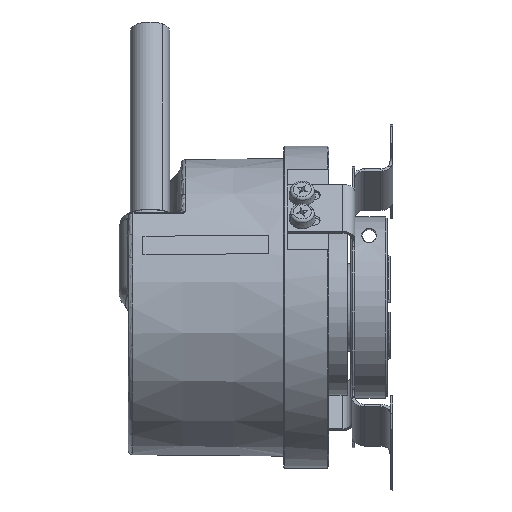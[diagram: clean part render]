
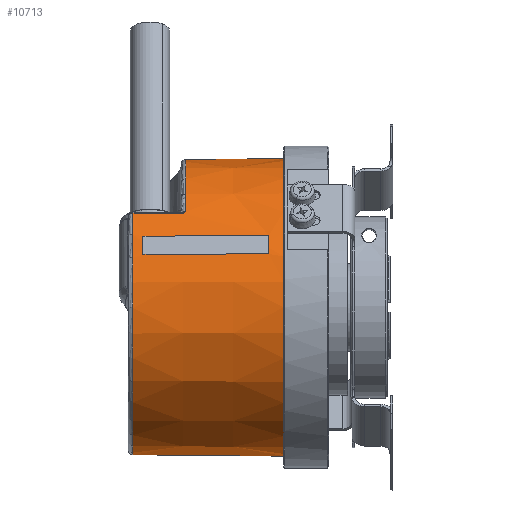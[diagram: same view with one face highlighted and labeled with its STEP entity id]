
A CAD part, front view. The second image highlights one B-rep face of the part: STEP entity #10713.
In plain terms, the highlighted conical face has half-angle 0.5 degrees and reference radius 25.4 mm.
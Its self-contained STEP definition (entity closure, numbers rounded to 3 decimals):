
#2391 = CARTESIAN_POINT ( 'NONE',  ( -20.207, 0., -25.176 ) ) ;
#2395 = DIRECTION ( 'NONE',  ( 1., 0., -0.009 ) ) ;
#2396 = VECTOR ( 'NONE', #2395, 1000. ) ;
#2397 = CARTESIAN_POINT ( 'NONE',  ( 5.5, 0., -25.4 ) ) ;
#2398 = LINE ( 'NONE', #2397, #2396 ) ;
#2399 = CARTESIAN_POINT ( 'NONE',  ( 5.5, 0., -25.4 ) ) ;
#2405 = CARTESIAN_POINT ( 'NONE',  ( 5.5, 0., 25.4 ) ) ;
#2406 = DIRECTION ( 'NONE',  ( 1., 0., 0.009 ) ) ;
#2407 = VECTOR ( 'NONE', #2406, 1000. ) ;
#2408 = CARTESIAN_POINT ( 'NONE',  ( 5.5, 0., 25.4 ) ) ;
#2409 = LINE ( 'NONE', #2408, #2407 ) ;
#2410 = CARTESIAN_POINT ( 'NONE',  ( -11.207, 0., 25.254 ) ) ;
#2646 = CIRCLE ( 'NONE', #2704, 25.254 ) ;
#2701 = DIRECTION ( 'NONE',  ( 0., 0., 1. ) ) ;
#2702 = DIRECTION ( 'NONE',  ( 1., 0., 0. ) ) ;
#2703 = CARTESIAN_POINT ( 'NONE',  ( -11.207, 0., 0. ) ) ;
#2704 = AXIS2_PLACEMENT_3D ( 'NONE', #2703, #2702, #2701 ) ;
#2705 = CARTESIAN_POINT ( 'NONE',  ( -11.207, -19.272, 16.321 ) ) ;
#3041 = CARTESIAN_POINT ( 'NONE',  ( -20.207, -19.395, 16.051 ) ) ;
#3042 = DIRECTION ( 'NONE',  ( 0., 0., -1. ) ) ;
#3043 = DIRECTION ( 'NONE',  ( 1., 0., 0. ) ) ;
#3044 = AXIS2_PLACEMENT_3D ( 'NONE', #3057, #3043, #3042 ) ;
#3045 = CIRCLE ( 'NONE', #3044, 25.176 ) ;
#3057 = CARTESIAN_POINT ( 'NONE',  ( -20.207, 0., 0. ) ) ;
#3067 = CARTESIAN_POINT ( 'NONE',  ( -11.918, -19.463, 16.083 ) ) ;
#3723 = CARTESIAN_POINT ( 'NONE',  ( -20.207, -19.395, 16.051 ) ) ;
#3724 = CARTESIAN_POINT ( 'NONE',  ( -18.111, -19.412, 16.059 ) ) ;
#3725 = CARTESIAN_POINT ( 'NONE',  ( -16.015, -19.43, 16.067 ) ) ;
#3726 = CARTESIAN_POINT ( 'NONE',  ( -13.918, -19.447, 16.075 ) ) ;
#3727 = CARTESIAN_POINT ( 'NONE',  ( -13.385, -19.451, 16.077 ) ) ;
#3728 = CARTESIAN_POINT ( 'NONE',  ( -12.852, -19.455, 16.079 ) ) ;
#3729 = CARTESIAN_POINT ( 'NONE',  ( -12.318, -19.46, 16.081 ) ) ;
#3730 = CARTESIAN_POINT ( 'NONE',  ( -12.185, -19.461, 16.082 ) ) ;
#3731 = CARTESIAN_POINT ( 'NONE',  ( -12.052, -19.462, 16.082 ) ) ;
#3732 = CARTESIAN_POINT ( 'NONE',  ( -11.918, -19.463, 16.083 ) ) ;
#3740 = B_SPLINE_CURVE_WITH_KNOTS ( 'NONE', 3,
 ( #3732, #3731, #3730, #3729, #3728, #3727, #3726, #3725, #3724, #3723 ),
 .UNSPECIFIED., .F., .F.,
 ( 4, 3, 3, 4 ),
 ( 0., 0., 0.002, 0.008 ),
 .UNSPECIFIED. ) ;
#6415 = DIRECTION ( 'NONE',  ( 0., 0., -1. ) ) ;
#6416 = DIRECTION ( 'NONE',  ( -1., 0., 0. ) ) ;
#6417 = CARTESIAN_POINT ( 'NONE',  ( -18.5, 0., 0. ) ) ;
#6418 = AXIS2_PLACEMENT_3D ( 'NONE', #6417, #6416, #6415 ) ;
#6419 = CIRCLE ( 'NONE', #6418, 25.191 ) ;
#6420 = DIRECTION ( 'NONE',  ( 0., 0., -1. ) ) ;
#6421 = DIRECTION ( 'NONE',  ( 1., 0., 0. ) ) ;
#6422 = AXIS2_PLACEMENT_3D ( 'NONE', #6430, #6421, #6420 ) ;
#6423 = CIRCLE ( 'NONE', #6422, 25.4 ) ;
#6424 = CARTESIAN_POINT ( 'NONE',  ( -11.918, -19.463, 16.083 ) ) ;
#6425 = CARTESIAN_POINT ( 'NONE',  ( -11.785, -19.464, 16.083 ) ) ;
#6426 = CARTESIAN_POINT ( 'NONE',  ( -11.656, -19.442, 16.111 ) ) ;
#6427 = CARTESIAN_POINT ( 'NONE',  ( -11.418, -19.373, 16.198 ) ) ;
#6428 = CARTESIAN_POINT ( 'NONE',  ( -11.31, -19.325, 16.257 ) ) ;
#6429 = CARTESIAN_POINT ( 'NONE',  ( -11.207, -19.272, 16.321 ) ) ;
#6430 = CARTESIAN_POINT ( 'NONE',  ( 5.5, 0., 0. ) ) ;
#6431 = B_SPLINE_CURVE_WITH_KNOTS ( 'NONE', 3,
 ( #6429, #6428, #6427, #6426, #6425, #6424 ),
 .UNSPECIFIED., .F., .F.,
 ( 4, 2, 4 ),
 ( 0., 0., 0.001 ),
 .UNSPECIFIED. ) ;
#6448 = FACE_BOUND ( 'NONE', #10701, .T. ) ;
#6449 = FACE_OUTER_BOUND ( 'NONE', #10714, .T. ) ;
#6453 = CARTESIAN_POINT ( 'NONE',  ( -18.5, -22.055, 12.172 ) ) ;
#6454 = CARTESIAN_POINT ( 'NONE',  ( -17.603, -22.061, 12.176 ) ) ;
#6455 = CARTESIAN_POINT ( 'NONE',  ( -16.707, -22.068, 12.179 ) ) ;
#6456 = CARTESIAN_POINT ( 'NONE',  ( -15.81, -22.075, 12.183 ) ) ;
#6457 = CARTESIAN_POINT ( 'NONE',  ( -9.54, -22.124, 12.208 ) ) ;
#6458 = CARTESIAN_POINT ( 'NONE',  ( -3.27, -22.173, 12.232 ) ) ;
#6459 = CARTESIAN_POINT ( 'NONE',  ( 3., -22.222, 12.257 ) ) ;
#6461 = CARTESIAN_POINT ( 'NONE',  ( -18.5, -22.055, 12.172 ) ) ;
#6462 = B_SPLINE_CURVE_WITH_KNOTS ( 'NONE', 3,
 ( #6459, #6458, #6457, #6456, #6455, #6454, #6453 ),
 .UNSPECIFIED., .F., .F.,
 ( 4, 3, 4 ),
 ( 0.003, 0.022, 0.025 ),
 .UNSPECIFIED. ) ;
#6464 = CARTESIAN_POINT ( 'NONE',  ( 3., -23.674, 9.144 ) ) ;
#6465 = CARTESIAN_POINT ( 'NONE',  ( -3.271, -23.623, 9.123 ) ) ;
#6466 = CARTESIAN_POINT ( 'NONE',  ( -9.541, -23.573, 9.101 ) ) ;
#6467 = CARTESIAN_POINT ( 'NONE',  ( -15.812, -23.522, 9.08 ) ) ;
#6468 = CARTESIAN_POINT ( 'NONE',  ( -16.708, -23.515, 9.077 ) ) ;
#6469 = CARTESIAN_POINT ( 'NONE',  ( -17.604, -23.508, 9.074 ) ) ;
#6470 = CARTESIAN_POINT ( 'NONE',  ( -18.5, -23.501, 9.071 ) ) ;
#6471 = CARTESIAN_POINT ( 'NONE',  ( -18.5, -23.501, 9.071 ) ) ;
#6472 = B_SPLINE_CURVE_WITH_KNOTS ( 'NONE', 3,
 ( #6470, #6469, #6468, #6467, #6466, #6465, #6464 ),
 .UNSPECIFIED., .F., .F.,
 ( 4, 3, 4 ),
 ( 0.019, 0.022, 0.041 ),
 .UNSPECIFIED. ) ;
#6485 = DIRECTION ( 'NONE',  ( 0., 0., -1. ) ) ;
#6486 = DIRECTION ( 'NONE',  ( 1., 0., 0. ) ) ;
#6487 = CARTESIAN_POINT ( 'NONE',  ( 5.5, 0., 0. ) ) ;
#6488 = AXIS2_PLACEMENT_3D ( 'NONE', #6487, #6486, #6485 ) ;
#6491 = CONICAL_SURFACE ( 'NONE', #6488, 25.4, 0.009 ) ;
#6513 = CARTESIAN_POINT ( 'NONE',  ( 3., -22.222, 12.257 ) ) ;
#6514 = CARTESIAN_POINT ( 'NONE',  ( 3., -23.674, 9.144 ) ) ;
#6515 = DIRECTION ( 'NONE',  ( 0., 0., -1. ) ) ;
#6516 = DIRECTION ( 'NONE',  ( -1., 0., 0. ) ) ;
#6517 = CARTESIAN_POINT ( 'NONE',  ( 3., 0., 0. ) ) ;
#6518 = AXIS2_PLACEMENT_3D ( 'NONE', #6517, #6516, #6515 ) ;
#6523 = CIRCLE ( 'NONE', #6518, 25.378 ) ;
#10168 = VERTEX_POINT ( 'NONE', #2410 ) ;
#10170 = EDGE_CURVE ( 'NONE', #10168, #10171, #2409, .T. ) ;
#10171 = VERTEX_POINT ( 'NONE', #2405 ) ;
#10174 = VERTEX_POINT ( 'NONE', #2399 ) ;
#10176 = EDGE_CURVE ( 'NONE', #10177, #10174, #2398, .T. ) ;
#10177 = VERTEX_POINT ( 'NONE', #2391 ) ;
#10239 = EDGE_CURVE ( 'NONE', #10168, #10240, #2646, .T. ) ;
#10240 = VERTEX_POINT ( 'NONE', #2705 ) ;
#10329 = EDGE_CURVE ( 'NONE', #10330, #10177, #3045, .T. ) ;
#10330 = VERTEX_POINT ( 'NONE', #3041 ) ;
#10336 = VERTEX_POINT ( 'NONE', #3067 ) ;
#10396 = EDGE_CURVE ( 'NONE', #10336, #10330, #3740, .T. ) ;
#10694 = ORIENTED_EDGE ( 'NONE', *, *, #10695, .T. ) ;
#10695 = EDGE_CURVE ( 'NONE', #10240, #10336, #6431, .T. ) ;
#10696 = ORIENTED_EDGE ( 'NONE', *, *, #10396, .T. ) ;
#10697 = ORIENTED_EDGE ( 'NONE', *, *, #10329, .T. ) ;
#10698 = ORIENTED_EDGE ( 'NONE', *, *, #10176, .T. ) ;
#10699 = ORIENTED_EDGE ( 'NONE', *, *, #10700, .F. ) ;
#10700 = EDGE_CURVE ( 'NONE', #10171, #10174, #6423, .T. ) ;
#10701 = EDGE_LOOP ( 'NONE', ( #10702, #10703, #10759, #10760 ) ) ;
#10702 = ORIENTED_EDGE ( 'NONE', *, *, #10705, .F. ) ;
#10703 = ORIENTED_EDGE ( 'NONE', *, *, #10704, .T. ) ;
#10704 = EDGE_CURVE ( 'NONE', #10706, #10710, #6419, .T. ) ;
#10705 = EDGE_CURVE ( 'NONE', #10706, #10725, #6472, .T. ) ;
#10706 = VERTEX_POINT ( 'NONE', #6471 ) ;
#10709 = EDGE_CURVE ( 'NONE', #10726, #10710, #6462, .T. ) ;
#10710 = VERTEX_POINT ( 'NONE', #6461 ) ;
#10713 = ADVANCED_FACE ( 'NONE', ( #6449, #6448 ), #6491, .T. ) ;
#10714 = EDGE_LOOP ( 'NONE', ( #10715, #10716, #10694, #10696, #10697, #10698, #10699 ) ) ;
#10715 = ORIENTED_EDGE ( 'NONE', *, *, #10170, .F. ) ;
#10716 = ORIENTED_EDGE ( 'NONE', *, *, #10239, .T. ) ;
#10724 = EDGE_CURVE ( 'NONE', #10725, #10726, #6523, .T. ) ;
#10725 = VERTEX_POINT ( 'NONE', #6514 ) ;
#10726 = VERTEX_POINT ( 'NONE', #6513 ) ;
#10759 = ORIENTED_EDGE ( 'NONE', *, *, #10709, .F. ) ;
#10760 = ORIENTED_EDGE ( 'NONE', *, *, #10724, .F. ) ;
